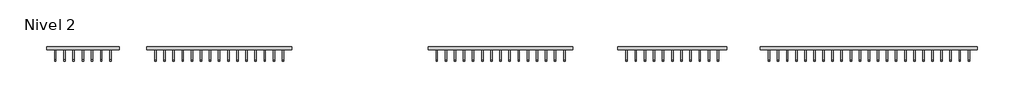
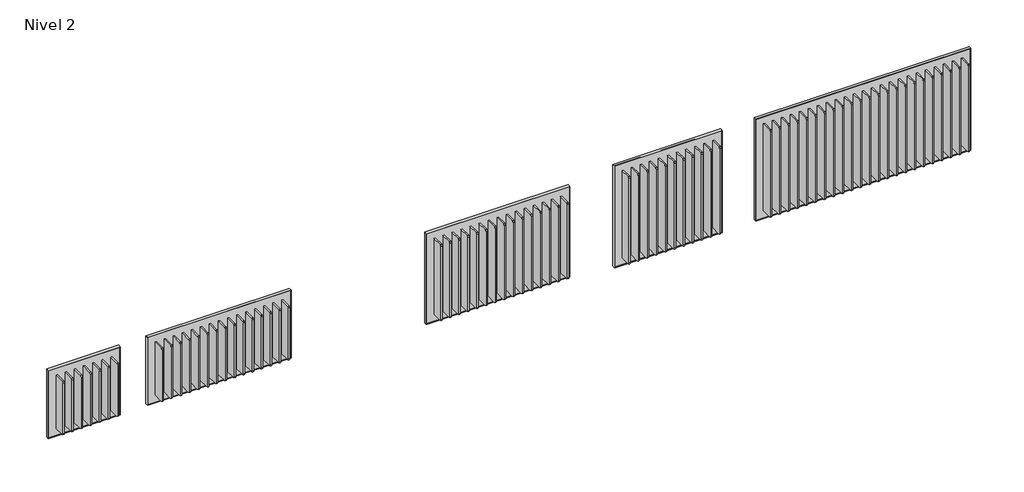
# One storey: 5 proxies.
"""IFC4 building model written with IfcOpenShell, lengths in millimetres."""

from ifc_helpers import new_model, si_unit, origin, place, context, project, spatial, transform, mapped, element, save
from components import generic_models_489bb385, generic_models_3b1ef418, generic_models_20795055, generic_models_4b6f71dd, generic_models_ba6735c8

model = new_model("IFC4")

# Units and contexts
model_context = context("Model", 3, world=origin())
ifc_project = project(units=[si_unit("LENGTHUNIT", "METRE", prefix="MILLI")], contexts=[model_context])

# Site, building, storey
site = spatial("IfcSite", under=ifc_project)
building = spatial("IfcBuilding", under=site)
storey = spatial("IfcBuildingStorey", under=building, Name="Nivel 2", Elevation=3000.0)

# Proxies
placement = place(None, origin())
generic_models_shape = generic_models_489bb385(model_context)
element("IfcBuildingElementProxy", 1, Name="Frame_Cascade 3.3dm", ObjectType="Frame_Cascade 3.3dm", at=placement, inside=storey, context=model_context, shape_type="MappedRepresentation", body=[
    mapped(generic_models_shape, transform((0.0, 0.0, 0.0), x_axis=(1.0, 0.0, 0.0), y_axis=(0.0, 1.0, 0.0), z_axis=(0.0, 0.0, 1.0))),
])
generic_models_2_shape = generic_models_3b1ef418(model_context)
element("IfcBuildingElementProxy", 2, Name="Frame_Cascade 5.3dm", ObjectType="Frame_Cascade 5.3dm", at=placement, inside=storey, context=model_context, shape_type="MappedRepresentation", body=[
    mapped(generic_models_2_shape, transform((0.0, 0.0, 0.0), x_axis=(1.0, 0.0, 0.0), y_axis=(0.0, 1.0, 0.0), z_axis=(0.0, 0.0, 1.0))),
])
generic_models_3_shape = generic_models_20795055(model_context)
element("IfcBuildingElementProxy", 3, Name="Frame_Cascade 7.3dm", ObjectType="Frame_Cascade 7.3dm", at=placement, inside=storey, context=model_context, shape_type="MappedRepresentation", body=[
    mapped(generic_models_3_shape, transform((0.0, 0.0, 0.0), x_axis=(1.0, 0.0, 0.0), y_axis=(0.0, 1.0, 0.0), z_axis=(0.0, 0.0, 1.0))),
])
generic_models_4_shape = generic_models_4b6f71dd(model_context)
element("IfcBuildingElementProxy", 4, Name="Frame_Cascade 10.3dm", ObjectType="Frame_Cascade 10.3dm", at=placement, inside=storey, context=model_context, shape_type="MappedRepresentation", body=[
    mapped(generic_models_4_shape, transform((0.0, 0.0, 0.0), x_axis=(1.0, 0.0, 0.0), y_axis=(0.0, 1.0, 0.0), z_axis=(0.0, 0.0, 1.0))),
])
generic_models_5_shape = generic_models_ba6735c8(model_context)
element("IfcBuildingElementProxy", 5, Name="Frame_Cascade 12.3dm", ObjectType="Frame_Cascade 12.3dm", at=placement, inside=storey, context=model_context, shape_type="MappedRepresentation", body=[
    mapped(generic_models_5_shape, transform((0.0, 0.0, 0.0), x_axis=(1.0, 0.0, 0.0), y_axis=(0.0, 1.0, 0.0), z_axis=(0.0, 0.0, 1.0))),
])

save(model, "model.ifc")
